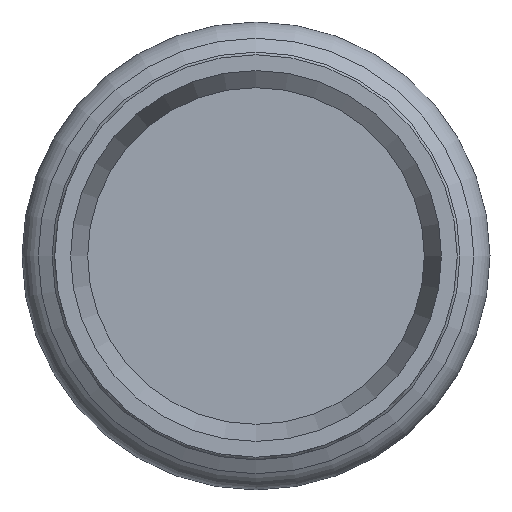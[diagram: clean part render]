
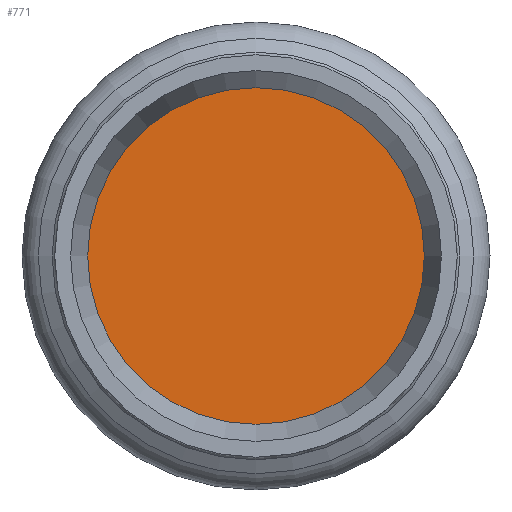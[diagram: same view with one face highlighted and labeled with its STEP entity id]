
A CAD part, left-side view. The second image highlights one B-rep face of the part: STEP entity #771.
In plain terms, the highlighted planar face has unit normal (-1, 0, 0) as drawn and (0, 0, 1) by its records, which use the part's own axes.
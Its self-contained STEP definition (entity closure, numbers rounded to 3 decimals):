
#740=CARTESIAN_POINT('',(17.5,0.,1.5));
#741=VERTEX_POINT('',#740);
#742=CARTESIAN_POINT('',(0.0,0.0,1.5));
#743=DIRECTION('',(0.0,0.0,-1.0));
#744=DIRECTION('',(-1.0,0.0,0.0));
#745=AXIS2_PLACEMENT_3D('',#742,#743,#744);
#746=CIRCLE('',#745,17.5);
#747=EDGE_CURVE('',#741,#741,#746,.T.);
#763=CARTESIAN_POINT('',(0.0,0.0,1.5));
#764=DIRECTION('',(0.0,0.0,-1.0));
#765=DIRECTION('',(-1.0,0.0,0.0));
#766=AXIS2_PLACEMENT_3D('',#763,#764,#765);
#767=PLANE('',#766);
#768=ORIENTED_EDGE('',*,*,#747,.F.);
#769=EDGE_LOOP('',(#768));
#770=FACE_OUTER_BOUND('',#769,.T.);
#771=ADVANCED_FACE('',(#770),#767,.F.);
